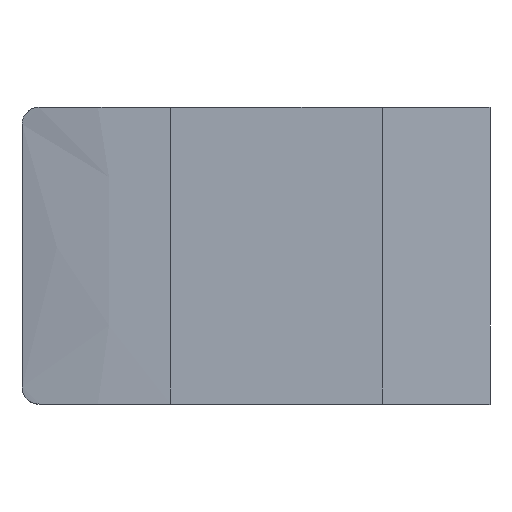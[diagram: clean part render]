
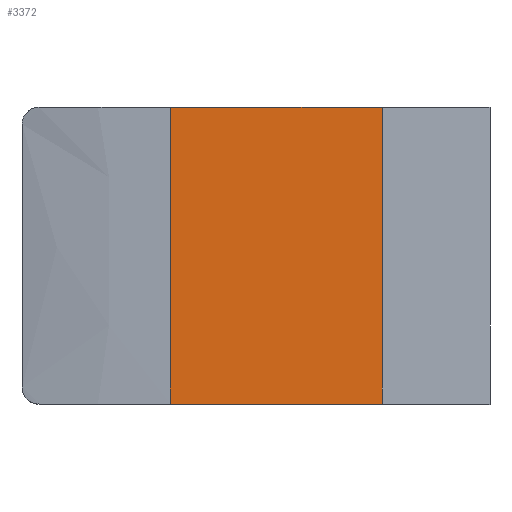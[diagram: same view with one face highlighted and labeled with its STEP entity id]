
A CAD part, top view. The second image highlights one B-rep face of the part: STEP entity #3372.
In plain terms, the highlighted planar face has unit normal (0, 0, 1).
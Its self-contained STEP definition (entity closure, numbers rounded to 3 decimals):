
#175 = CARTESIAN_POINT ( 'NONE',  ( -55.972, 26., 0. ) ) ;
#304 = VECTOR ( 'NONE', #1226, 1000. ) ;
#346 = ORIENTED_EDGE ( 'NONE', *, *, #2251, .T. ) ;
#417 = CARTESIAN_POINT ( 'NONE',  ( -18.857, -26., 0. ) ) ;
#440 = PLANE ( 'NONE',  #1687 ) ;
#762 = LINE ( 'NONE', #175, #304 ) ;
#786 = CARTESIAN_POINT ( 'NONE',  ( -55.972, 26., 0. ) ) ;
#815 = EDGE_CURVE ( 'NONE', #4376, #1153, #1473, .T. ) ;
#850 = VECTOR ( 'NONE', #2194, 1000. ) ;
#866 = VERTEX_POINT ( 'NONE', #2966 ) ;
#889 = CARTESIAN_POINT ( 'NONE',  ( -18.857, 26., 0. ) ) ;
#1059 = DIRECTION ( 'NONE',  ( -1., 0., 0. ) ) ;
#1102 = CARTESIAN_POINT ( 'NONE',  ( -55.972, -26., 0. ) ) ;
#1153 = VERTEX_POINT ( 'NONE', #2369 ) ;
#1226 = DIRECTION ( 'NONE',  ( 0., -1., 0. ) ) ;
#1473 = LINE ( 'NONE', #786, #850 ) ;
#1687 = AXIS2_PLACEMENT_3D ( 'NONE', #4275, #2493, #1059 ) ;
#1710 = CARTESIAN_POINT ( 'NONE',  ( -55.972, 26., 0. ) ) ;
#1752 = LINE ( 'NONE', #1102, #2422 ) ;
#1859 = DIRECTION ( 'NONE',  ( 0., -1., 0. ) ) ;
#2015 = EDGE_LOOP ( 'NONE', ( #346, #3769, #4056, #2113 ) ) ;
#2113 = ORIENTED_EDGE ( 'NONE', *, *, #3434, .T. ) ;
#2194 = DIRECTION ( 'NONE',  ( 1., 0., 0. ) ) ;
#2251 = EDGE_CURVE ( 'NONE', #866, #3327, #1752, .T. ) ;
#2369 = CARTESIAN_POINT ( 'NONE',  ( -18.857, 26., 0. ) ) ;
#2422 = VECTOR ( 'NONE', #3145, 1000. ) ;
#2493 = DIRECTION ( 'NONE',  ( 0., 0., -1. ) ) ;
#2793 = VECTOR ( 'NONE', #1859, 1000. ) ;
#2966 = CARTESIAN_POINT ( 'NONE',  ( -55.972, -26., 0. ) ) ;
#3145 = DIRECTION ( 'NONE',  ( 1., 0., 0. ) ) ;
#3327 = VERTEX_POINT ( 'NONE', #417 ) ;
#3372 = ADVANCED_FACE ( 'NONE', ( #3929 ), #440, .F. ) ;
#3434 = EDGE_CURVE ( 'NONE', #4376, #866, #762, .T. ) ;
#3557 = EDGE_CURVE ( 'NONE', #1153, #3327, #4408, .T. ) ;
#3769 = ORIENTED_EDGE ( 'NONE', *, *, #3557, .F. ) ;
#3929 = FACE_OUTER_BOUND ( 'NONE', #2015, .T. ) ;
#4056 = ORIENTED_EDGE ( 'NONE', *, *, #815, .F. ) ;
#4275 = CARTESIAN_POINT ( 'NONE',  ( -55.972, 26., 0. ) ) ;
#4376 = VERTEX_POINT ( 'NONE', #1710 ) ;
#4408 = LINE ( 'NONE', #889, #2793 ) ;
